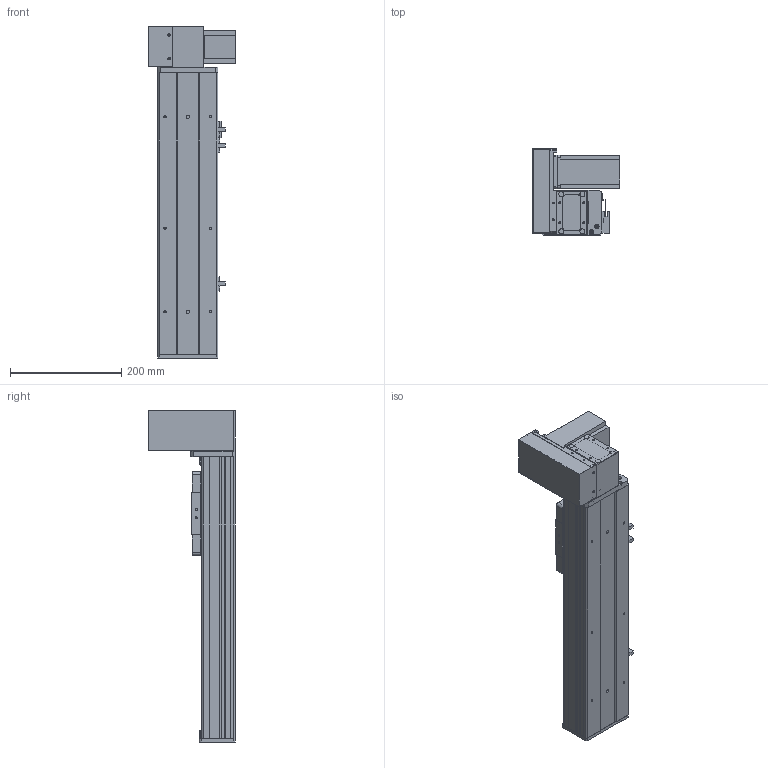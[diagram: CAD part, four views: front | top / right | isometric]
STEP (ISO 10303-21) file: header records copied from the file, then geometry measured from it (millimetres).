
FILE_DESCRIPTION (( 'STEP AP203' ), '1' );
FILE_NAME ('Y10CB-D90-S250-UL-P400W.STEP', '2020-02-16T04:27:39', ( '微软用户' ), ( '微软中国' ), 'SwSTEP 2.0', 'SolidWorks 2017', '' );
FILE_SCHEMA (( 'CONFIG_CONTROL_DESIGN' ));
Length unit declared in the file: millimetre
Products named in the file (18): 0CB-雄赽釱---; 0Cb-俋欶---; Y10B-々湍喘謫眊楊擘啣--; 0B-萇儂楊擘啣; san松下电机400不带刹车----; 0B-源倛裔啣; 0B-埴倛裔啣; 10CB-詩湍-; Y10CB- 掛极耜裔啣-毀---; Y10C---詩湍揤啣; 10CB9-掛极; 10CB-耜裔; Y135C-陔俋离換覜結え-; Y100-135俋离換覜ん--; Y10B-耜蚾蟀諉啣----; 00B-俋欶BM--; Y10B--々湍喘謫眊--666; Y10CB-D90-S250-UL-P400W
Assembly tree (21 placements, depth 2):
  Y10CB-D90-S250-UL-P400W
    0CB-雄赽釱---
    0Cb-俋欶---
    Y10B-々湍喘謫眊楊擘啣--
    0B-萇儂楊擘啣
    san松下电机400不带刹车----
    0B-源倛裔啣
    0B-埴倛裔啣
    10CB-詩湍-
    Y10CB- 掛极耜裔啣-毀---  x2
    Y10C---詩湍揤啣  x2
    10CB9-掛极
    10CB-耜裔
    Y135C-陔俋离換覜結え-
    Y100-135俋离換覜ん--  x3
    Y10B-耜蚾蟀諉啣----
    00B-俋欶BM--
    Y10B--々湍喘謫眊--666
Bounding box: 157 x 155.5 x 596 mm (x, y, z)
Volume: 1827237 mm3; surface area: 751223.9 mm2
Topology: 21 solids, 21 shells, 942 faces, 2483 edges, 1634 vertices
Faces by surface type: plane 469, cylinder 449, cone 24
Entity records: 28912 total; most frequent: CARTESIAN_POINT 4877, DIRECTION 4726, ORIENTED_EDGE 4436, EDGE_CURVE 2218, AXIS2_PLACEMENT_3D 1693, VERTEX_POINT 1460, LINE 1340, VECTOR 1340
